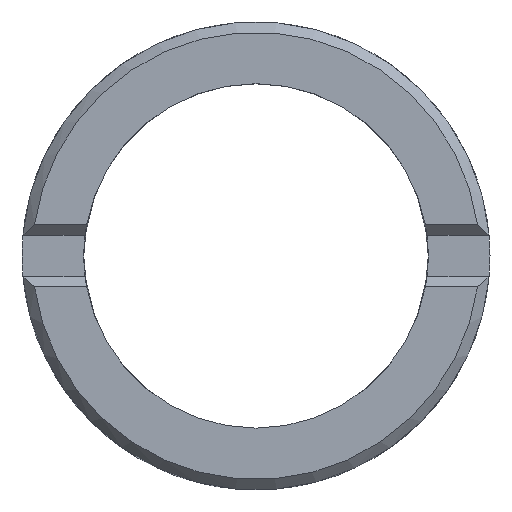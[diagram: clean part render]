
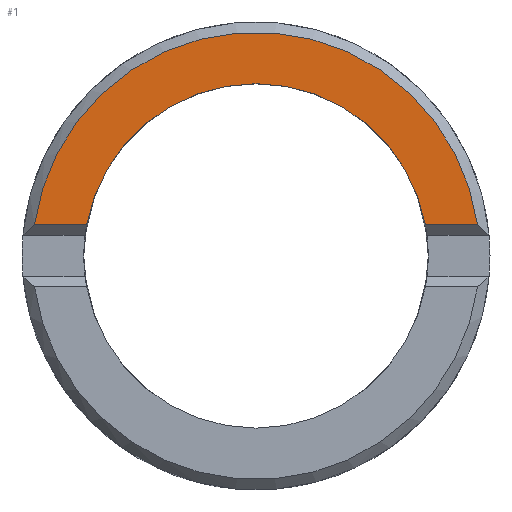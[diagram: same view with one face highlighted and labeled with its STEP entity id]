
A CAD part, top view. The second image highlights one B-rep face of the part: STEP entity #1.
In plain terms, the highlighted planar face has unit normal (0, 0, 1).
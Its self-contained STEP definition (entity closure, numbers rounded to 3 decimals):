
#1 = ADVANCED_FACE ( 'NONE', ( #457 ), #675, .T. ) ;
#3 = DIRECTION ( 'NONE',  ( 0., 0., 1. ) ) ;
#66 = VECTOR ( 'NONE', #94, 1000. ) ;
#94 = DIRECTION ( 'NONE',  ( 1., 0., 0. ) ) ;
#121 = ORIENTED_EDGE ( 'NONE', *, *, #489, .F. ) ;
#156 = DIRECTION ( 'NONE',  ( 1., 0., 0. ) ) ;
#166 = CARTESIAN_POINT ( 'NONE',  ( 0., 0., 2. ) ) ;
#178 = EDGE_CURVE ( 'NONE', #468, #462, #387, .T. ) ;
#180 = DIRECTION ( 'NONE',  ( 1., 0., 0. ) ) ;
#237 = DIRECTION ( 'NONE',  ( 1., 0., 0. ) ) ;
#249 = CARTESIAN_POINT ( 'NONE',  ( 6.432, 0.9, 2. ) ) ;
#270 = LINE ( 'NONE', #669, #632 ) ;
#283 = VERTEX_POINT ( 'NONE', #249 ) ;
#287 = CARTESIAN_POINT ( 'NONE',  ( -4.918, 0.9, 2. ) ) ;
#301 = CIRCLE ( 'NONE', #704, 6.495 ) ;
#315 = ORIENTED_EDGE ( 'NONE', *, *, #496, .T. ) ;
#348 = CIRCLE ( 'NONE', #536, 5. ) ;
#387 = LINE ( 'NONE', #611, #66 ) ;
#401 = DIRECTION ( 'NONE',  ( 0., 0., 1. ) ) ;
#457 = FACE_OUTER_BOUND ( 'NONE', #509, .T. ) ;
#462 = VERTEX_POINT ( 'NONE', #287 ) ;
#468 = VERTEX_POINT ( 'NONE', #519 ) ;
#469 = CARTESIAN_POINT ( 'NONE',  ( 0., 0., 2. ) ) ;
#489 = EDGE_CURVE ( 'NONE', #722, #462, #348, .T. ) ;
#496 = EDGE_CURVE ( 'NONE', #283, #468, #301, .T. ) ;
#509 = EDGE_LOOP ( 'NONE', ( #315, #727, #121, #627 ) ) ;
#519 = CARTESIAN_POINT ( 'NONE',  ( -6.432, 0.9, 2. ) ) ;
#526 = CARTESIAN_POINT ( 'NONE',  ( 0., 0., 2. ) ) ;
#536 = AXIS2_PLACEMENT_3D ( 'NONE', #526, #3, #237 ) ;
#545 = AXIS2_PLACEMENT_3D ( 'NONE', #166, #401, #623 ) ;
#611 = CARTESIAN_POINT ( 'NONE',  ( -4.964, 0.9, 2. ) ) ;
#614 = CARTESIAN_POINT ( 'NONE',  ( 4.918, 0.9, 2. ) ) ;
#623 = DIRECTION ( 'NONE',  ( 1., 0., 0. ) ) ;
#627 = ORIENTED_EDGE ( 'NONE', *, *, #692, .T. ) ;
#632 = VECTOR ( 'NONE', #156, 1000. ) ;
#669 = CARTESIAN_POINT ( 'NONE',  ( 6.768, 0.9, 2. ) ) ;
#675 = PLANE ( 'NONE',  #545 ) ;
#689 = DIRECTION ( 'NONE',  ( 0., 0., 1. ) ) ;
#692 = EDGE_CURVE ( 'NONE', #722, #283, #270, .T. ) ;
#704 = AXIS2_PLACEMENT_3D ( 'NONE', #469, #689, #180 ) ;
#722 = VERTEX_POINT ( 'NONE', #614 ) ;
#727 = ORIENTED_EDGE ( 'NONE', *, *, #178, .T. ) ;
